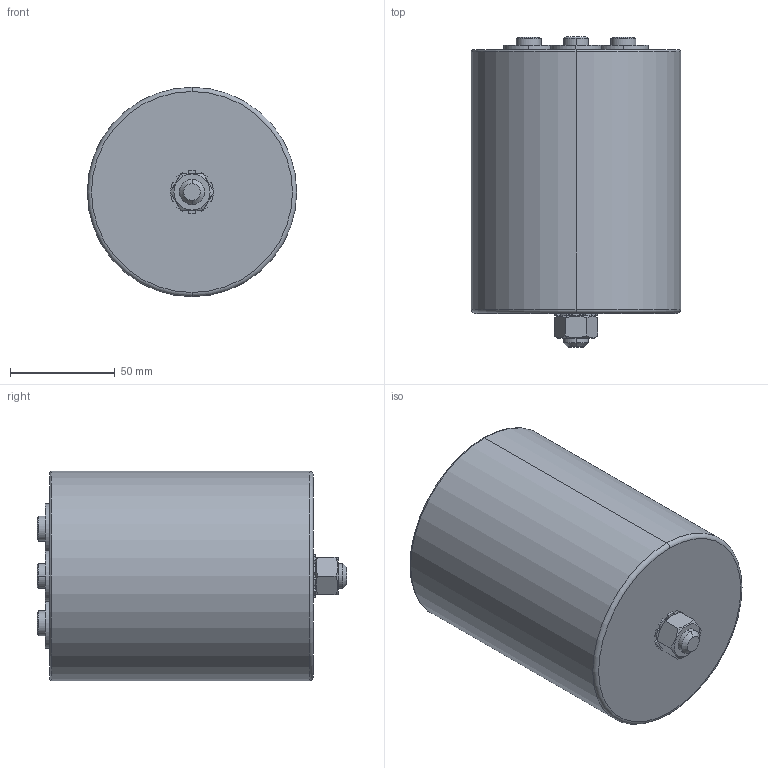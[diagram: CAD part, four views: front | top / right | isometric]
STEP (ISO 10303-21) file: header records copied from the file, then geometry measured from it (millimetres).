
FILE_DESCRIPTION (( 'STEP AP214' ), '1' );
FILE_NAME ('B25967 Series ¦µ100 Hc126 Ht132.STEP', '2025-08-20T01:59:37', ( '' ), ( '' ), 'SwSTEP 2.0', 'SolidWorks 2019', '' );
FILE_SCHEMA (( 'AUTOMOTIVE_DESIGN' ));
Length unit declared in the file: millimetre
Products named in the file (1): B25967 Series 朴100 Hc126 Ht132
Bounding box: 100 x 148 x 100 mm (x, y, z)
Volume: 993318.6 mm3; surface area: 59782.6 mm2
Topology: 1 solids, 2 shells, 162 faces, 379 edges, 230 vertices
Faces by surface type: cylinder 63, plane 63, cone 30, torus 6
Entity records: 4743 total; most frequent: CARTESIAN_POINT 896, DIRECTION 885, ORIENTED_EDGE 742, EDGE_CURVE 371, AXIS2_PLACEMENT_3D 363, VERTEX_POINT 230, CIRCLE 200, EDGE_LOOP 181
